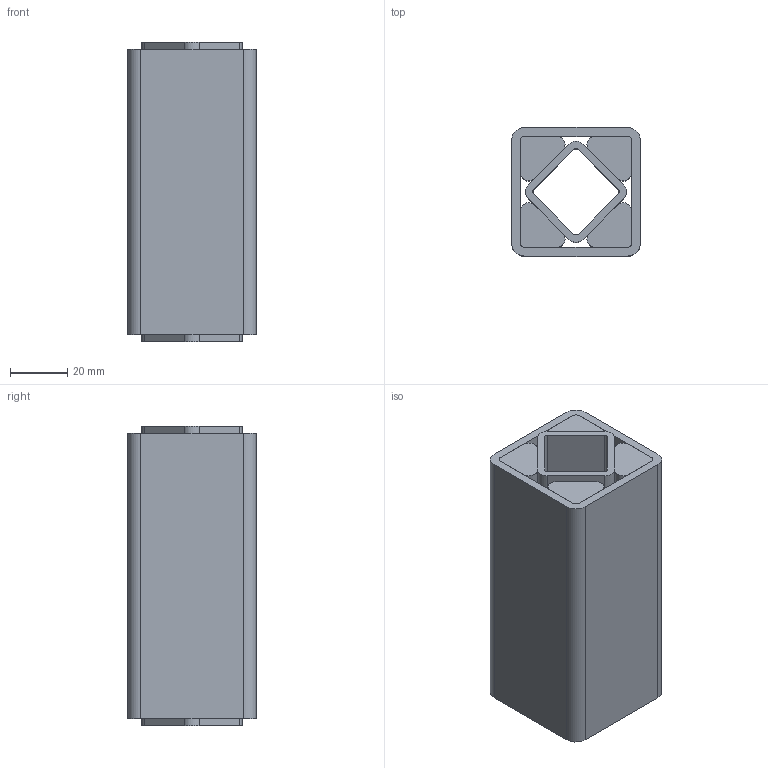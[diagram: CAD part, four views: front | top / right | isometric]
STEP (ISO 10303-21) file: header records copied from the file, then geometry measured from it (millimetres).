
FILE_DESCRIPTION((''),'2;1');
FILE_NAME('D:\ROSTA\Gummifederelemente\3D\DR-S27x100_01021012.stp','2005-02-02T06:24:35',('Administrator'),(''),'Autodesk Inventor 8','Autodesk Inventor 8','');
FILE_SCHEMA(('AUTOMOTIVE_DESIGN { 1 0 10303 214 1 1 1 1 }'));
Length unit declared in the file: millimetre
Products named in the file (4): Baugruppe9; 4.4.3728-009; 4.4.3728-010; 4.4.3728-011
Assembly tree (6 placements, depth 2):
  Baugruppe9
    4.4.3728-009
    4.4.3728-010
    4.4.3728-011  x4
Bounding box: 45 x 45 x 105 mm (x, y, z)
Volume: 143739.3 mm3; surface area: 76187.3 mm2
Topology: 6 solids, 6 shells, 68 faces, 168 edges, 112 vertices
Faces by surface type: plane 40, cylinder 28
Entity records: 1491 total; most frequent: DIRECTION 260, CARTESIAN_POINT 244, ORIENTED_EDGE 228, EDGE_CURVE 114, AXIS2_PLACEMENT_3D 92, VERTEX_POINT 76, VECTOR 76, LINE 76
